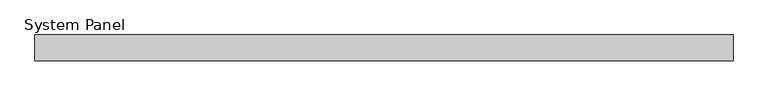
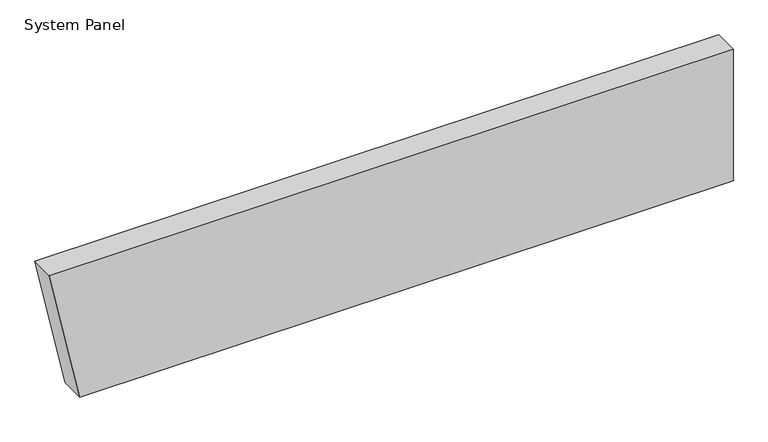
"""IFC4 building model written with IfcOpenShell, lengths in millimetres: plate geometry, System Panel : MetecnoPanel 200mm Horizontal - Plain Astro - PIR."""

from ifc_helpers import new_model, si_unit, frame, origin, place, context, project, spatial, polyline, outline, extrude, source, transform, mapped, element, save


def system_panel_9920641b(model_context):
    return source(origin(), model_context, "Body", "SweptSolid", [
        extrude(outline(polyline([(0.0, -2470.4338217), (0.0, 2709.5661783), (1100.0, 2709.5661783), (1100.0, -2709.5661783), (0.0, -2470.4338217)])), frame((0.0, -200.0, 0.0), z_axis=(0.0, 1.0, 0.0), x_axis=(0.0, 0.0, 1.0)), (0.0, 0.0, 1.0), 200.0),
    ])


if __name__ == "__main__":
    model = new_model("IFC4")
    model_context = context("Model", 3, world=origin())
    ifc_project = project(units=[si_unit("LENGTHUNIT", "METRE", prefix="MILLI")], contexts=[model_context])
    site = spatial("IfcSite", under=ifc_project)
    building = spatial("IfcBuilding", under=site)
    placement = place(None, origin())
    system_panel_shape = system_panel_9920641b(model_context)
    element("IfcPlate", 1, ObjectType="System Panel : MetecnoPanel 200mm Horizontal - Plain Astro - PIR", at=placement, inside=building, context=model_context, shape_type="MappedRepresentation", body=[
        mapped(system_panel_shape, transform((0.0, 0.0, 0.0), x_axis=(1.0, 0.0, 0.0), y_axis=(0.0, 1.0, 0.0), z_axis=(0.0, 0.0, 1.0))),
    ])
    save(model, "model.ifc")
